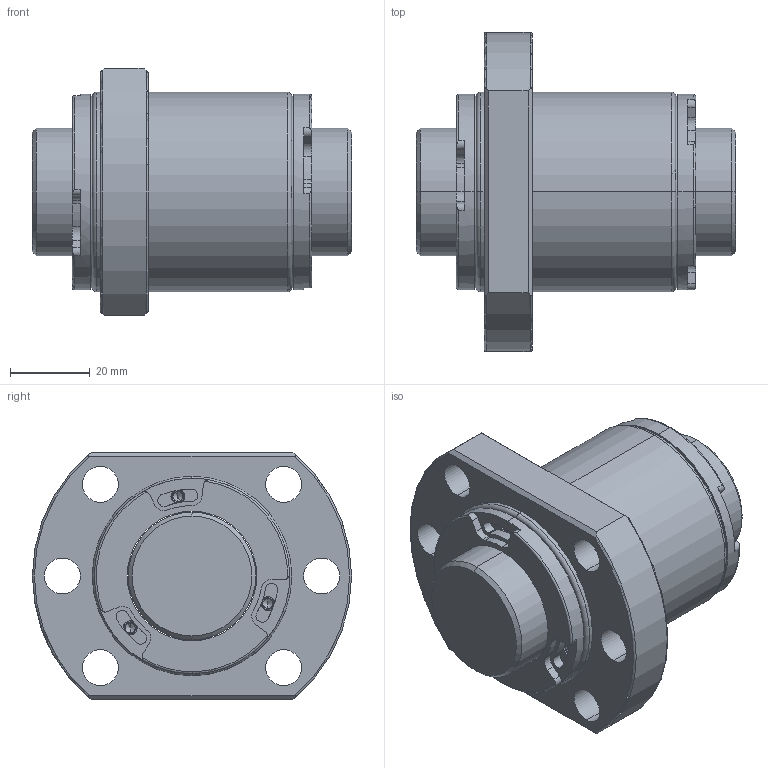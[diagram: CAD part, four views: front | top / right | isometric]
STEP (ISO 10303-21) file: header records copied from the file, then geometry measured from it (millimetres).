
FILE_DESCRIPTION (( 'STEP AP203' ), '1' );
FILE_NAME ('SFHR03210C1D-C.STEP', '2020-06-17T08:06:30', ( '' ), ( '' ), 'SwSTEP 2.0', 'SolidWorks 2013', '' );
FILE_SCHEMA (( 'CONFIG_CONTROL_DESIGN' ));
Length unit declared in the file: millimetre
Products named in the file (1): SFHR03210C1D-C
Bounding box: 80 x 80 x 62 mm (x, y, z)
Volume: 151672.8 mm3; surface area: 35713.3 mm2
Topology: 2 solids, 2 shells, 237 faces, 602 edges, 376 vertices
Faces by surface type: cylinder 128, plane 65, cone 28, torus 16
Entity records: 7541 total; most frequent: CARTESIAN_POINT 1532, DIRECTION 1384, ORIENTED_EDGE 1180, EDGE_CURVE 590, AXIS2_PLACEMENT_3D 588, VERTEX_POINT 376, CIRCLE 350, EDGE_LOOP 272
